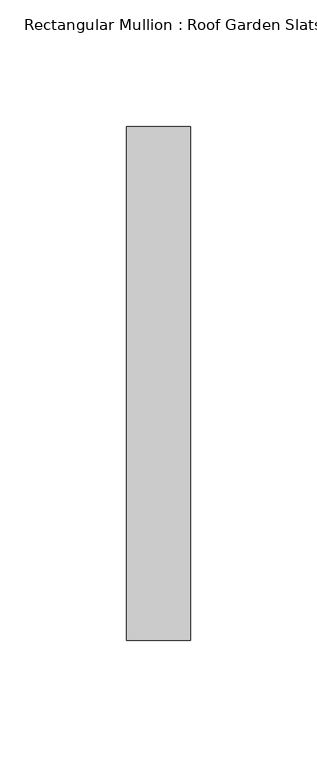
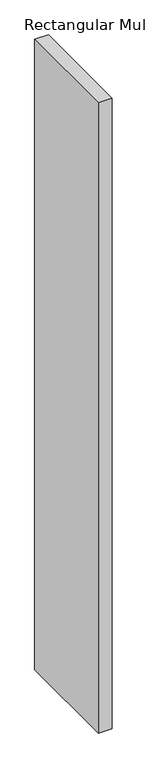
"""IFC4 building model written with IfcOpenShell, lengths in millimetres: member geometry, Rectangular Mullion : Roof Garden Slats."""

import ifcopenshell
import ifcopenshell.guid

model = None  # the IFC model being written
_history = None  # IfcOwnerHistory: only IFC2X3 demands one
_inside = {}  # id of a spatial element -> (the spatial element, [elements in it])
_under = {}  # id of a project, library or spatial element -> (it, [spatial elements below it])
_declared = {}  # id of a project -> (the project, [libraries it declares])
_typed = {}  # id of a type object -> (the type object, [elements of that type])
_made_of = {}  # id of a material, layer set ... -> (it, [elements and type objects made of it])


def new_model(schema):
    """Start an empty IFC model of exactly this schema.

    Asked for "IFC4X3", IfcOpenShell would pick the latest addendum, in which some entities
    have other attributes; the version numbers below select the first issue.
    IFC2X3 requires an IfcOwnerHistory on every rooted entity: one is made here for all.
    """
    global model, _history
    if schema == "IFC4X3":
        model = ifcopenshell.file(schema_version=(4, 3, 0, 0))
    else:
        model = ifcopenshell.file(schema=schema)
    _inside.clear()
    _under.clear()
    _declared.clear()
    _typed.clear()
    _made_of.clear()
    _history = None
    if model.schema == "IFC2X3":
        org = make("IfcOrganization", Name="unknown")
        user = make(
            "IfcPersonAndOrganization",
            ThePerson=make("IfcPerson", FamilyName="unknown"),
            TheOrganization=org,
        )
        app = make(
            "IfcApplication",
            ApplicationDeveloper=org,
            Version="unknown",
            ApplicationFullName="unknown",
            ApplicationIdentifier="unknown",
        )
        _history = make(
            "IfcOwnerHistory",
            OwningUser=user,
            OwningApplication=app,
            ChangeAction="ADDED",
            CreationDate=0,
        )
    return model


def make(cls, **values):
    """One entity of the class cls with the attributes given. An attribute that is None is left unset."""
    return model.create_entity(
        cls, **{name: value for name, value in values.items() if value is not None}
    )


def rooted(cls, **values):
    """An entity with a GlobalId (a new one), such as an element, a storey or a relation."""
    return make(cls, GlobalId=ifcopenshell.guid.new(), OwnerHistory=_history, **values)


def si_unit(unit_type, name, prefix=None):
    """IfcSIUnit, for example si_unit("LENGTHUNIT", "METRE", prefix="MILLI")."""
    return make("IfcSIUnit", UnitType=unit_type, Prefix=prefix, Name=name)


def assignment(units):
    """IfcUnitAssignment: the units of a project."""
    return None if units is None else make("IfcUnitAssignment", Units=units)


def point(xyz):
    """IfcCartesianPoint."""
    return None if xyz is None else make("IfcCartesianPoint", Coordinates=xyz)


def direction(xyz):
    """IfcDirection."""
    return None if xyz is None else make("IfcDirection", DirectionRatios=xyz)


def frame(location, z_axis=None, x_axis=None):
    """IfcAxis2Placement3D, a coordinate frame: its origin and axes. An axis left out is left unset."""
    return make(
        "IfcAxis2Placement3D",
        Location=point(location),
        Axis=direction(z_axis),
        RefDirection=direction(x_axis),
    )


def origin():
    """The frame at (0, 0, 0) with its axes left unset."""
    return frame((0.0, 0.0, 0.0))


def place(relative_to, where):
    """IfcLocalPlacement: puts the frame where relative to a parent placement (None: the world)."""
    return make(
        "IfcLocalPlacement", PlacementRelTo=relative_to, RelativePlacement=where
    )


def context(
    kind, dimensions, precision=None, world=None, true_north=None, identifier=None
):
    """IfcGeometricRepresentationContext, for example the 3D "Model" context."""
    return make(
        "IfcGeometricRepresentationContext",
        ContextIdentifier=identifier,
        ContextType=kind,
        CoordinateSpaceDimension=dimensions,
        Precision=precision,
        WorldCoordinateSystem=world,
        TrueNorth=true_north,
    )


def project(units=None, contexts=None):
    """IfcProject with its units and contexts."""
    return rooted(
        "IfcProject",
        Name="project",
        RepresentationContexts=contexts,
        UnitsInContext=assignment(units),
    )


def spatial(cls, under=None, at=None, **own):
    """A site, building, storey or space (cls), placed at a placement, below another one or the project."""
    s = rooted(cls, ObjectPlacement=at, **own)
    if under is not None:
        _under.setdefault(under.id(), (under, []))[1].append(s)
    return s


def polyline(points):
    """IfcPolyline through the points."""
    return make("IfcPolyline", Points=[point(p) for p in points])


def outline(outer, holes=None, kind="AREA"):
    """IfcArbitraryClosedProfileDef: a profile drawn as a closed curve; with holes, ...WithVoids."""
    if holes is None:
        return make("IfcArbitraryClosedProfileDef", ProfileType=kind, OuterCurve=outer)
    return make(
        "IfcArbitraryProfileDefWithVoids",
        ProfileType=kind,
        OuterCurve=outer,
        InnerCurves=holes,
    )


def extrude(swept, where, along, depth):
    """IfcExtrudedAreaSolid: the profile swept, set in the frame where, extruded along a direction by depth."""
    return make(
        "IfcExtrudedAreaSolid",
        SweptArea=swept,
        Position=where,
        ExtrudedDirection=direction(along),
        Depth=depth,
    )


def shape(context_of_items, identifier, shape_type, items):
    """IfcShapeRepresentation: the items that make up one representation, for example the "Body"."""
    return make(
        "IfcShapeRepresentation",
        ContextOfItems=context_of_items,
        RepresentationIdentifier=identifier,
        RepresentationType=shape_type,
        Items=items,
    )


def source(mapping_origin, context_of_items, identifier, shape_type, items):
    """IfcRepresentationMap: a shape defined once, which mapped items show again and again."""
    return make(
        "IfcRepresentationMap",
        MappingOrigin=mapping_origin,
        MappedRepresentation=shape(context_of_items, identifier, shape_type, items),
    )


def transform(
    local_origin,
    x_axis=None,
    y_axis=None,
    z_axis=None,
    scale=None,
    scale2=None,
    scale3=None,
    uniform=True,
):
    """IfcCartesianTransformationOperator3D, or its non-uniform kind. x_axis, y_axis, z_axis: its Axis1, 2, 3."""
    if uniform:
        return make(
            "IfcCartesianTransformationOperator3D",
            Axis1=direction(x_axis),
            Axis2=direction(y_axis),
            LocalOrigin=point(local_origin),
            Scale=scale,
            Axis3=direction(z_axis),
        )
    return make(
        "IfcCartesianTransformationOperator3DnonUniform",
        Axis1=direction(x_axis),
        Axis2=direction(y_axis),
        LocalOrigin=point(local_origin),
        Scale=scale,
        Axis3=direction(z_axis),
        Scale2=scale2,
        Scale3=scale3,
    )


def mapped(mapping_source, mapping_target):
    """IfcMappedItem: shows the shape of a source again, moved by a transform."""
    return make(
        "IfcMappedItem", MappingSource=mapping_source, MappingTarget=mapping_target
    )


def made_of(thing, what):
    """Note that an element or type object is made of a material, layer set ...; save() writes the relation."""
    if what is not None:
        _made_of.setdefault(what.id(), (what, []))[1].append(thing)
    return thing


def element(
    cls,
    number,
    at=None,
    inside=None,
    cuts=None,
    type_object=None,
    material=None,
    context=None,
    identifier="Body",
    shape_type=None,
    held_by="IfcProductDefinitionShape",
    body=None,
    shapes=None,
    **own,
):
    """One element of the class cls, such as IfcWall. Its Tag is "e" and its number.

    at: its placement. inside: the storey or other place that contains it. cuts: it is an
    opening in that element (IfcRelVoidsElement). A single representation is given by context,
    identifier, shape_type and body (its items); several are given by shapes. held_by: the class
    of the entity that holds the representations. save() writes the other relations.
    """
    e = rooted(cls, Tag="e%d" % number, ObjectPlacement=at, **own)
    if body is not None:
        shapes = [shape(context, identifier, shape_type, body)]
    if shapes is not None:
        e.Representation = make(held_by, Representations=shapes)
    if inside is not None:
        _inside.setdefault(inside.id(), (inside, []))[1].append(e)
    if cuts is not None:
        rooted(
            "IfcRelVoidsElement", RelatingBuildingElement=cuts, RelatedOpeningElement=e
        )
    if type_object is not None:
        _typed.setdefault(type_object.id(), (type_object, []))[1].append(e)
    return made_of(e, material)


def aggregate(whole, parts):
    """IfcRelAggregates: a whole, such as a stair, and the parts it consists of."""
    return rooted("IfcRelAggregates", RelatingObject=whole, RelatedObjects=parts)


def save(model, path):
    """Write the relations noted so far, then the file.

    IfcRelAggregates (storeys below a building ...), IfcRelContainedInSpatialStructure (elements
    in a storey), IfcRelDefinesByType, IfcRelAssociatesMaterial and IfcRelDeclares: one each for
    every whole, place, type object, material and project.
    """
    for whole, parts in _under.values():
        aggregate(whole, parts)
    for where, things in _inside.values():
        rooted(
            "IfcRelContainedInSpatialStructure",
            RelatedElements=things,
            RelatingStructure=where,
        )
    for kind, things in _typed.values():
        rooted("IfcRelDefinesByType", RelatedObjects=things, RelatingType=kind)
    for what, things in _made_of.values():
        rooted("IfcRelAssociatesMaterial", RelatedObjects=things, RelatingMaterial=what)
    for by, libraries in _declared.values():
        rooted("IfcRelDeclares", RelatingContext=by, RelatedDefinitions=libraries)
    model.write(path)


def rectangular_mullion_roof_garden_slats_9cfa7115(model_context):
    return source(origin(), model_context, "Body", "SweptSolid", [
        extrude(outline(polyline([(0.0, 139.7), (0.0, -63.5), (-25.4, -63.5), (-25.4, 139.7), (0.0, 139.7)])), frame((0.0, 0.0, -1226.802402), z_axis=(0.0, 0.0, 1.0), x_axis=(1.0, 0.0, 0.0)), (0.0, 0.0, 1.0), 1226.802402),
    ])


if __name__ == "__main__":
    model = new_model("IFC4")
    model_context = context("Model", 3, world=origin())
    ifc_project = project(units=[si_unit("LENGTHUNIT", "METRE", prefix="MILLI")], contexts=[model_context])
    site = spatial("IfcSite", under=ifc_project)
    building = spatial("IfcBuilding", under=site)
    placement = place(None, origin())
    rectangular_mullion_roof_garden_slats_shape = rectangular_mullion_roof_garden_slats_9cfa7115(model_context)
    element("IfcMember", 1, ObjectType="Rectangular Mullion : Roof Garden Slats", at=placement, inside=building, context=model_context, shape_type="MappedRepresentation", body=[
        mapped(rectangular_mullion_roof_garden_slats_shape, transform((0.0, 0.0, 0.0), x_axis=(1.0, 0.0, 0.0), y_axis=(0.0, 1.0, 0.0), z_axis=(0.0, 0.0, 1.0))),
    ])
    save(model, "model.ifc")
